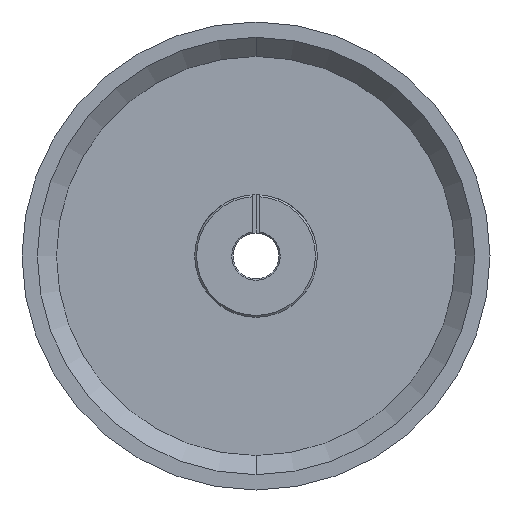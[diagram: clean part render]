
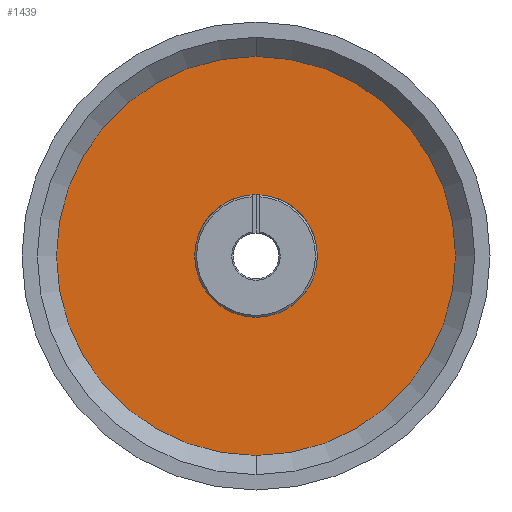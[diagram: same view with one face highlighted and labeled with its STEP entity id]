
A CAD part, front view. The second image highlights one B-rep face of the part: STEP entity #1439.
In plain terms, the highlighted planar face has unit normal (0, -1, 0).
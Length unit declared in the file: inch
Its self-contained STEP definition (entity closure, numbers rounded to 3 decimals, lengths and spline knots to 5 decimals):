
#101 = DIRECTION ( 'NONE',  ( 0., 0., -1. ) ) ;
#251 = DIRECTION ( 'NONE',  ( 0., -1., 0. ) ) ;
#396 = DIRECTION ( 'NONE',  ( 0., -1., 0. ) ) ;
#402 = ORIENTED_EDGE ( 'NONE', *, *, #1418, .F. ) ;
#455 = EDGE_CURVE ( 'NONE', #2041, #2963, #673, .T. ) ;
#511 = CIRCLE ( 'NONE', #908, 1.629 ) ;
#558 = CIRCLE ( 'NONE', #1397, 0.50025 ) ;
#599 = CARTESIAN_POINT ( 'NONE',  ( -0.12203, -0.05275, 1.49552 ) ) ;
#673 = CIRCLE ( 'NONE', #1163, 1.629 ) ;
#692 = EDGE_LOOP ( 'NONE', ( #2645, #2295 ) ) ;
#706 = ORIENTED_EDGE ( 'NONE', *, *, #748, .F. ) ;
#748 = EDGE_CURVE ( 'NONE', #2789, #3113, #1166, .T. ) ;
#908 = AXIS2_PLACEMENT_3D ( 'NONE', #1899, #941, #2408 ) ;
#924 = FACE_BOUND ( 'NONE', #2036, .T. ) ;
#941 = DIRECTION ( 'NONE',  ( 0., -1., 0. ) ) ;
#1163 = AXIS2_PLACEMENT_3D ( 'NONE', #1815, #396, #2525 ) ;
#1166 = CIRCLE ( 'NONE', #1264, 0.50025 ) ;
#1181 = FACE_OUTER_BOUND ( 'NONE', #692, .T. ) ;
#1192 = DIRECTION ( 'NONE',  ( 0., 0., -1. ) ) ;
#1264 = AXIS2_PLACEMENT_3D ( 'NONE', #1683, #251, #1192 ) ;
#1277 = CARTESIAN_POINT ( 'NONE',  ( -0.12203, -0.05275, -0.13348 ) ) ;
#1378 = CARTESIAN_POINT ( 'NONE',  ( -0.12203, -0.05275, -0.13348 ) ) ;
#1397 = AXIS2_PLACEMENT_3D ( 'NONE', #1277, #2286, #101 ) ;
#1418 = EDGE_CURVE ( 'NONE', #3113, #2789, #558, .T. ) ;
#1439 = ADVANCED_FACE ( 'NONE', ( #924, #1181 ), #1626, .T. ) ;
#1467 = CARTESIAN_POINT ( 'NONE',  ( -0.12203, -0.05275, -1.76248 ) ) ;
#1499 = EDGE_CURVE ( 'NONE', #2963, #2041, #511, .T. ) ;
#1626 = PLANE ( 'NONE',  #1869 ) ;
#1683 = CARTESIAN_POINT ( 'NONE',  ( -0.12203, -0.05275, -0.13348 ) ) ;
#1815 = CARTESIAN_POINT ( 'NONE',  ( -0.12203, -0.05275, -0.13348 ) ) ;
#1834 = CARTESIAN_POINT ( 'NONE',  ( -0.12203, -0.05275, 0.36677 ) ) ;
#1869 = AXIS2_PLACEMENT_3D ( 'NONE', #1378, #2377, #2134 ) ;
#1899 = CARTESIAN_POINT ( 'NONE',  ( -0.12203, -0.05275, -0.13348 ) ) ;
#2036 = EDGE_LOOP ( 'NONE', ( #402, #706 ) ) ;
#2041 = VERTEX_POINT ( 'NONE', #1467 ) ;
#2134 = DIRECTION ( 'NONE',  ( 0., 0., -1. ) ) ;
#2286 = DIRECTION ( 'NONE',  ( 0., -1., 0. ) ) ;
#2295 = ORIENTED_EDGE ( 'NONE', *, *, #1499, .T. ) ;
#2377 = DIRECTION ( 'NONE',  ( 0., -1., 0. ) ) ;
#2408 = DIRECTION ( 'NONE',  ( 0., 0., -1. ) ) ;
#2495 = CARTESIAN_POINT ( 'NONE',  ( -0.12203, -0.05275, -0.63373 ) ) ;
#2525 = DIRECTION ( 'NONE',  ( 0., 0., -1. ) ) ;
#2645 = ORIENTED_EDGE ( 'NONE', *, *, #455, .T. ) ;
#2789 = VERTEX_POINT ( 'NONE', #1834 ) ;
#2963 = VERTEX_POINT ( 'NONE', #599 ) ;
#3113 = VERTEX_POINT ( 'NONE', #2495 ) ;
